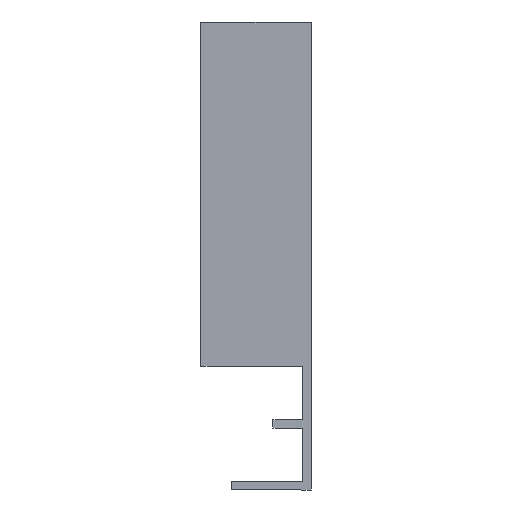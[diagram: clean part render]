
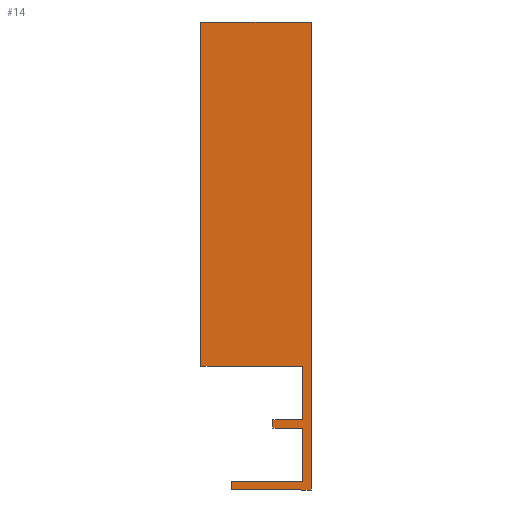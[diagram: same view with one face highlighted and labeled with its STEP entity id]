
A CAD part, left-side view. The second image highlights one B-rep face of the part: STEP entity #14.
In plain terms, the highlighted planar face has unit normal (-1, 0, 0).
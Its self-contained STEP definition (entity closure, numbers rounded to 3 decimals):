
#14 = ADVANCED_FACE ( 'NONE', ( #54 ), #381, .T. ) ;
#18 = LINE ( 'NONE', #440, #183 ) ;
#22 = VECTOR ( 'NONE', #433, 1000. ) ;
#23 = LINE ( 'NONE', #432, #22 ) ;
#24 = LINE ( 'NONE', #438, #177 ) ;
#30 = VECTOR ( 'NONE', #425, 1000. ) ;
#34 = VECTOR ( 'NONE', #420, 1000. ) ;
#40 = LINE ( 'NONE', #419, #30 ) ;
#44 = LINE ( 'NONE', #417, #34 ) ;
#45 = VECTOR ( 'NONE', #406, 1000. ) ;
#47 = LINE ( 'NONE', #393, #48 ) ;
#48 = VECTOR ( 'NONE', #404, 1000. ) ;
#49 = LINE ( 'NONE', #402, #45 ) ;
#54 = FACE_OUTER_BOUND ( 'NONE', #70, .T. ) ;
#70 = EDGE_LOOP ( 'NONE', ( #96, #97, #98, #99, #100, #101, #102, #103, #104, #105, #130, #162 ) ) ;
#96 = ORIENTED_EDGE ( 'NONE', *, *, #293, .T. ) ;
#97 = ORIENTED_EDGE ( 'NONE', *, *, #263, .T. ) ;
#98 = ORIENTED_EDGE ( 'NONE', *, *, #289, .T. ) ;
#99 = ORIENTED_EDGE ( 'NONE', *, *, #255, .T. ) ;
#100 = ORIENTED_EDGE ( 'NONE', *, *, #236, .T. ) ;
#101 = ORIENTED_EDGE ( 'NONE', *, *, #270, .T. ) ;
#102 = ORIENTED_EDGE ( 'NONE', *, *, #285, .T. ) ;
#103 = ORIENTED_EDGE ( 'NONE', *, *, #249, .T. ) ;
#104 = ORIENTED_EDGE ( 'NONE', *, *, #246, .T. ) ;
#105 = ORIENTED_EDGE ( 'NONE', *, *, #235, .T. ) ;
#130 = ORIENTED_EDGE ( 'NONE', *, *, #274, .T. ) ;
#162 = ORIENTED_EDGE ( 'NONE', *, *, #280, .T. ) ;
#177 = VECTOR ( 'NONE', #441, 1000. ) ;
#178 = LINE ( 'NONE', #450, #201 ) ;
#183 = VECTOR ( 'NONE', #447, 1000. ) ;
#191 = LINE ( 'NONE', #454, #192 ) ;
#192 = VECTOR ( 'NONE', #455, 1000. ) ;
#201 = VECTOR ( 'NONE', #466, 1000. ) ;
#203 = LINE ( 'NONE', #467, #204 ) ;
#204 = VECTOR ( 'NONE', #468, 1000. ) ;
#207 = LINE ( 'NONE', #471, #208 ) ;
#208 = VECTOR ( 'NONE', #472, 1000. ) ;
#213 = LINE ( 'NONE', #477, #214 ) ;
#214 = VECTOR ( 'NONE', #478, 1000. ) ;
#235 = EDGE_CURVE ( 'NONE', #326, #324, #47, .T. ) ;
#236 = EDGE_CURVE ( 'NONE', #339, #320, #49, .T. ) ;
#246 = EDGE_CURVE ( 'NONE', #323, #326, #44, .T. ) ;
#249 = EDGE_CURVE ( 'NONE', #329, #323, #40, .T. ) ;
#255 = EDGE_CURVE ( 'NONE', #336, #339, #23, .T. ) ;
#260 = AXIS2_PLACEMENT_3D ( 'NONE', #384, #390, #391 ) ;
#263 = EDGE_CURVE ( 'NONE', #340, #317, #24, .T. ) ;
#270 = EDGE_CURVE ( 'NONE', #320, #342, #18, .T. ) ;
#274 = EDGE_CURVE ( 'NONE', #324, #322, #191, .T. ) ;
#280 = EDGE_CURVE ( 'NONE', #322, #337, #178, .T. ) ;
#285 = EDGE_CURVE ( 'NONE', #342, #329, #203, .T. ) ;
#289 = EDGE_CURVE ( 'NONE', #317, #336, #207, .T. ) ;
#293 = EDGE_CURVE ( 'NONE', #337, #340, #213, .T. ) ;
#317 = VERTEX_POINT ( 'NONE', #488 ) ;
#320 = VERTEX_POINT ( 'NONE', #494 ) ;
#322 = VERTEX_POINT ( 'NONE', #495 ) ;
#323 = VERTEX_POINT ( 'NONE', #496 ) ;
#324 = VERTEX_POINT ( 'NONE', #497 ) ;
#326 = VERTEX_POINT ( 'NONE', #499 ) ;
#329 = VERTEX_POINT ( 'NONE', #502 ) ;
#336 = VERTEX_POINT ( 'NONE', #509 ) ;
#337 = VERTEX_POINT ( 'NONE', #510 ) ;
#339 = VERTEX_POINT ( 'NONE', #512 ) ;
#340 = VERTEX_POINT ( 'NONE', #513 ) ;
#342 = VERTEX_POINT ( 'NONE', #515 ) ;
#381 = PLANE ( 'NONE',  #260 ) ;
#384 = CARTESIAN_POINT ( 'NONE',  ( -310.5, 6., -16.7 ) ) ;
#390 = DIRECTION ( 'NONE',  ( -1., 0., 0. ) ) ;
#391 = DIRECTION ( 'NONE',  ( 0., -1., 0. ) ) ;
#393 = CARTESIAN_POINT ( 'NONE',  ( -310.5, 0., -7.75 ) ) ;
#402 = CARTESIAN_POINT ( 'NONE',  ( -310.5, -5.5, 49.7 ) ) ;
#404 = DIRECTION ( 'NONE',  ( 0., 0., -1. ) ) ;
#406 = DIRECTION ( 'NONE',  ( 0., 1., 0. ) ) ;
#417 = CARTESIAN_POINT ( 'NONE',  ( -310.5, -4.3, -7.75 ) ) ;
#419 = CARTESIAN_POINT ( 'NONE',  ( -310.5, -4.3, 0. ) ) ;
#420 = DIRECTION ( 'NONE',  ( 0., 1., 0. ) ) ;
#425 = DIRECTION ( 'NONE',  ( 0., 0., -1. ) ) ;
#432 = CARTESIAN_POINT ( 'NONE',  ( -310.5, -5.5, -17.9 ) ) ;
#433 = DIRECTION ( 'NONE',  ( 0., 0., 1. ) ) ;
#438 = CARTESIAN_POINT ( 'NONE',  ( -310.5, 6., -16.7 ) ) ;
#440 = CARTESIAN_POINT ( 'NONE',  ( -310.5, 10.4, 49.7 ) ) ;
#441 = DIRECTION ( 'NONE',  ( 0., 0., -1. ) ) ;
#447 = DIRECTION ( 'NONE',  ( 0., 0., -1. ) ) ;
#450 = CARTESIAN_POINT ( 'NONE',  ( -310.5, -4.3, -8.95 ) ) ;
#454 = CARTESIAN_POINT ( 'NONE',  ( -310.5, 0., -8.95 ) ) ;
#455 = DIRECTION ( 'NONE',  ( 0., -1., 0. ) ) ;
#466 = DIRECTION ( 'NONE',  ( 0., 0., -1. ) ) ;
#467 = CARTESIAN_POINT ( 'NONE',  ( -310.5, 10.4, 0. ) ) ;
#468 = DIRECTION ( 'NONE',  ( 0., -1., 0. ) ) ;
#471 = CARTESIAN_POINT ( 'NONE',  ( -310.5, 6., -17.9 ) ) ;
#472 = DIRECTION ( 'NONE',  ( 0., -1., 0. ) ) ;
#477 = CARTESIAN_POINT ( 'NONE',  ( -310.5, -4.3, -16.7 ) ) ;
#478 = DIRECTION ( 'NONE',  ( 0., 1., 0. ) ) ;
#488 = CARTESIAN_POINT ( 'NONE',  ( -310.5, 6., -17.9 ) ) ;
#494 = CARTESIAN_POINT ( 'NONE',  ( -310.5, 10.4, 49.7 ) ) ;
#495 = CARTESIAN_POINT ( 'NONE',  ( -310.5, -4.3, -8.95 ) ) ;
#496 = CARTESIAN_POINT ( 'NONE',  ( -310.5, -4.3, -7.75 ) ) ;
#497 = CARTESIAN_POINT ( 'NONE',  ( -310.5, 0., -8.95 ) ) ;
#499 = CARTESIAN_POINT ( 'NONE',  ( -310.5, 0., -7.75 ) ) ;
#502 = CARTESIAN_POINT ( 'NONE',  ( -310.5, -4.3, 0. ) ) ;
#509 = CARTESIAN_POINT ( 'NONE',  ( -310.5, -5.5, -17.9 ) ) ;
#510 = CARTESIAN_POINT ( 'NONE',  ( -310.5, -4.3, -16.7 ) ) ;
#512 = CARTESIAN_POINT ( 'NONE',  ( -310.5, -5.5, 49.7 ) ) ;
#513 = CARTESIAN_POINT ( 'NONE',  ( -310.5, 6., -16.7 ) ) ;
#515 = CARTESIAN_POINT ( 'NONE',  ( -310.5, 10.4, 0. ) ) ;
